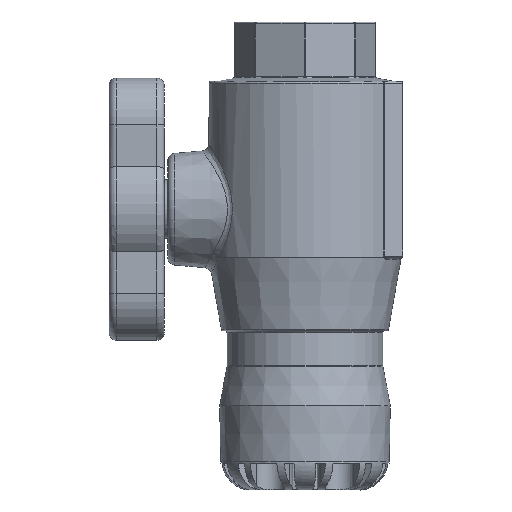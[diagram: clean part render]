
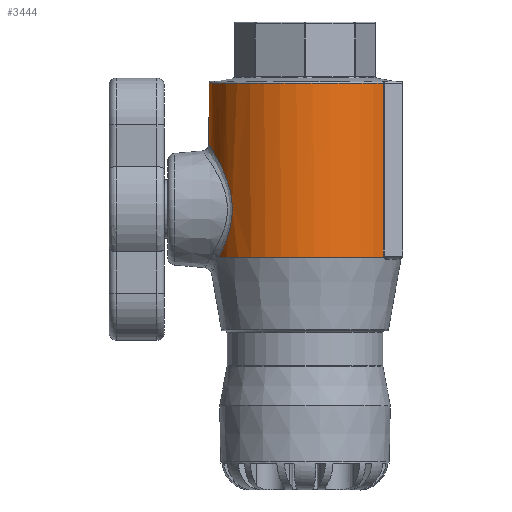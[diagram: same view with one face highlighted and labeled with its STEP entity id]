
A CAD part, left-side view. The second image highlights one B-rep face of the part: STEP entity #3444.
In plain terms, the highlighted cylindrical face has radius 26.5 mm (diameter 53 mm), a partial arc.
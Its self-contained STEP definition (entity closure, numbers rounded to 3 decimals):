
#126=B_SPLINE_CURVE_WITH_KNOTS('',3,(#6295,#6296,#6297,#6298,#6299,#6300,
#6301,#6302,#6303,#6304,#6305,#6306,#6307,#6308,#6309,#6310,#6311,#6312,
#6313,#6314,#6315,#6316,#6317),.UNSPECIFIED.,.F.,.F.,(4,1,1,1,1,1,1,1,1,
1,1,1,1,1,1,1,1,1,1,1,4),(-9.122,-8.471,-8.145,
-7.819,-7.493,-7.167,-6.923,
-6.516,-5.647,-5.213,-4.67,
-4.344,-3.909,-3.258,-2.769,
-2.606,-1.955,-1.303,-1.14,
-0.652,0.),.UNSPECIFIED.);
#139=B_SPLINE_CURVE_WITH_KNOTS('',3,(#6540,#6541,#6542,#6543),
 .UNSPECIFIED.,.F.,.F.,(4,4),(0.,0.051),.UNSPECIFIED.);
#140=B_SPLINE_CURVE_WITH_KNOTS('',3,(#6580,#6581,#6582,#6583),
 .UNSPECIFIED.,.F.,.F.,(4,4),(-0.051,0.),.UNSPECIFIED.);
#224=CYLINDRICAL_SURFACE('',#3809,26.5);
#464=FACE_OUTER_BOUND('',#682,.T.);
#682=EDGE_LOOP('',(#2805,#2806,#2807,#2808,#2809,#2810,#2811,#2812));
#892=LINE('',#6516,#1063);
#897=LINE('',#6560,#1068);
#1063=VECTOR('',#4567,10.);
#1068=VECTOR('',#4586,10.);
#1248=CIRCLE('',#3770,26.5);
#1265=CIRCLE('',#3793,26.5);
#1273=CIRCLE('',#3808,26.5);
#1542=VERTEX_POINT('',#6164);
#1546=VERTEX_POINT('',#6293);
#1560=VERTEX_POINT('',#6466);
#1567=VERTEX_POINT('',#6491);
#1573=VERTEX_POINT('',#6503);
#1575=VERTEX_POINT('',#6512);
#1577=VERTEX_POINT('',#6533);
#1584=VERTEX_POINT('',#6558);
#1962=EDGE_CURVE('',#1546,#1542,#126,.T.);
#1982=EDGE_CURVE('',#1542,#1560,#1248,.T.);
#2001=EDGE_CURVE('',#1567,#1573,#1265,.T.);
#2005=EDGE_CURVE('',#1573,#1575,#892,.T.);
#2008=EDGE_CURVE('',#1575,#1577,#139,.T.);
#2016=EDGE_CURVE('',#1584,#1567,#897,.T.);
#2019=EDGE_CURVE('',#1560,#1584,#140,.T.);
#2029=EDGE_CURVE('',#1577,#1546,#1273,.T.);
#2805=ORIENTED_EDGE('',*,*,#1962,.F.);
#2806=ORIENTED_EDGE('',*,*,#2029,.F.);
#2807=ORIENTED_EDGE('',*,*,#2008,.F.);
#2808=ORIENTED_EDGE('',*,*,#2005,.F.);
#2809=ORIENTED_EDGE('',*,*,#2001,.F.);
#2810=ORIENTED_EDGE('',*,*,#2016,.F.);
#2811=ORIENTED_EDGE('',*,*,#2019,.F.);
#2812=ORIENTED_EDGE('',*,*,#1982,.F.);
#3444=ADVANCED_FACE('',(#464),#224,.T.);
#3770=AXIS2_PLACEMENT_3D('',#6467,#4511,#4512);
#3793=AXIS2_PLACEMENT_3D('',#6509,#4558,#4559);
#3808=AXIS2_PLACEMENT_3D('',#6733,#4596,#4597);
#3809=AXIS2_PLACEMENT_3D('',#6734,#4598,#4599);
#4511=DIRECTION('center_axis',(0.,0.,-1.));
#4512=DIRECTION('ref_axis',(0.994,0.108,0.));
#4558=DIRECTION('center_axis',(0.,0.,1.));
#4559=DIRECTION('ref_axis',(0.,1.,0.));
#4567=DIRECTION('',(0.,0.,-1.));
#4586=DIRECTION('',(0.,0.,1.));
#4596=DIRECTION('center_axis',(0.,0.,-1.));
#4597=DIRECTION('ref_axis',(-0.994,0.108,0.));
#4598=DIRECTION('center_axis',(0.,0.,-1.));
#4599=DIRECTION('ref_axis',(0.,1.,0.));
#6164=CARTESIAN_POINT('',(11.622,23.815,-64.963));
#6293=CARTESIAN_POINT('',(-11.622,23.815,-64.963));
#6295=CARTESIAN_POINT('Ctrl Pts',(-11.622,23.815,-64.963));
#6296=CARTESIAN_POINT('Ctrl Pts',(-13.048,23.12,-63.619));
#6297=CARTESIAN_POINT('Ctrl Pts',(-14.86,21.993,-61.249));
#6298=CARTESIAN_POINT('Ctrl Pts',(-16.482,20.764,-57.476));
#6299=CARTESIAN_POINT('Ctrl Pts',(-17.231,20.136,-54.372));
#6300=CARTESIAN_POINT('Ctrl Pts',(-17.435,19.956,-51.1));
#6301=CARTESIAN_POINT('Ctrl Pts',(-17.09,20.258,-48.134));
#6302=CARTESIAN_POINT('Ctrl Pts',(-16.255,20.941,-45.076));
#6303=CARTESIAN_POINT('Ctrl Pts',(-14.239,22.45,-40.759));
#6304=CARTESIAN_POINT('Ctrl Pts',(-10.661,24.465,-36.956));
#6305=CARTESIAN_POINT('Ctrl Pts',(-5.67,26.007,-34.339));
#6306=CARTESIAN_POINT('Ctrl Pts',(-1.693,26.553,-33.472));
#6307=CARTESIAN_POINT('Ctrl Pts',(2.366,26.473,-33.596));
#6308=CARTESIAN_POINT('Ctrl Pts',(6.619,25.815,-34.66));
#6309=CARTESIAN_POINT('Ctrl Pts',(10.748,24.352,-37.141));
#6310=CARTESIAN_POINT('Ctrl Pts',(13.409,22.887,-40.05));
#6311=CARTESIAN_POINT('Ctrl Pts',(15.58,21.489,-43.384));
#6312=CARTESIAN_POINT('Ctrl Pts',(17.326,20.068,-47.751));
#6313=CARTESIAN_POINT('Ctrl Pts',(17.478,19.92,-52.777));
#6314=CARTESIAN_POINT('Ctrl Pts',(16.65,20.625,-56.975));
#6315=CARTESIAN_POINT('Ctrl Pts',(15.163,21.801,-60.858));
#6316=CARTESIAN_POINT('Ctrl Pts',(13.048,23.12,-63.619));
#6317=CARTESIAN_POINT('Ctrl Pts',(11.622,23.815,-64.963));
#6466=CARTESIAN_POINT('',(15.141,-21.748,-64.963));
#6467=CARTESIAN_POINT('Origin',(0.,0.,-64.963));
#6491=CARTESIAN_POINT('',(15.296,-21.64,-16.872));
#6503=CARTESIAN_POINT('',(-15.296,-21.64,-16.872));
#6509=CARTESIAN_POINT('Origin',(0.,0.,-16.872));
#6512=CARTESIAN_POINT('',(-15.296,-21.64,-64.507));
#6516=CARTESIAN_POINT('',(-15.296,-21.64,-40.689));
#6533=CARTESIAN_POINT('',(-15.141,-21.748,-64.963));
#6540=CARTESIAN_POINT('Ctrl Pts',(-15.296,-21.64,-64.507));
#6541=CARTESIAN_POINT('Ctrl Pts',(-15.296,-21.64,-64.676));
#6542=CARTESIAN_POINT('Ctrl Pts',(-15.232,-21.685,-64.837));
#6543=CARTESIAN_POINT('Ctrl Pts',(-15.141,-21.748,-64.963));
#6558=CARTESIAN_POINT('',(15.296,-21.64,-64.507));
#6560=CARTESIAN_POINT('',(15.296,-21.64,-40.689));
#6580=CARTESIAN_POINT('Ctrl Pts',(15.141,-21.748,-64.963));
#6581=CARTESIAN_POINT('Ctrl Pts',(15.232,-21.685,-64.837));
#6582=CARTESIAN_POINT('Ctrl Pts',(15.296,-21.64,-64.676));
#6583=CARTESIAN_POINT('Ctrl Pts',(15.296,-21.64,-64.507));
#6733=CARTESIAN_POINT('Origin',(0.,0.,-64.963));
#6734=CARTESIAN_POINT('Origin',(0.,0.,-40.689));
